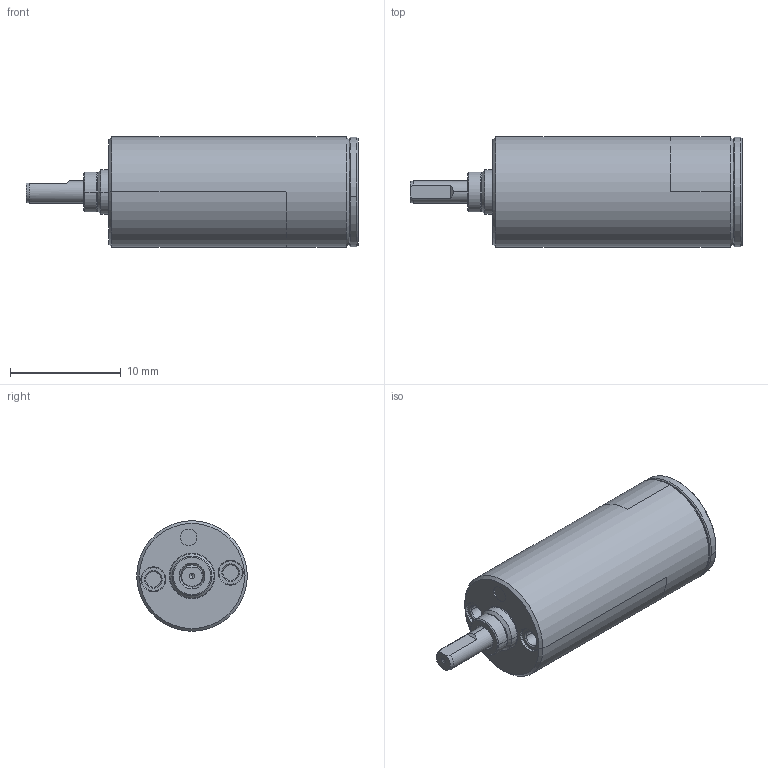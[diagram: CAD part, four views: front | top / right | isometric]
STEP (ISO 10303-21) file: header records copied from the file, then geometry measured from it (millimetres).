
FILE_DESCRIPTION((''),'2;1');
FILE_NAME('110308_GP10K_0_005NM_1ST_GL','2016-10-04T',('mmagvisi'),(''),'CREO PARAMETRIC BY PTC INC, 2016050','CREO PARAMETRIC BY PTC INC, 2016050','');
FILE_SCHEMA(('CONFIG_CONTROL_DESIGN'));
Length unit declared in the file: millimetre
Products named in the file (1): 110308_GP10K_0_005NM_1ST_GL
Bounding box: 30 x 10 x 10 mm (x, y, z)
Volume: 1768.9 mm3; surface area: 980.3 mm2
Topology: 1 solids, 1 shells, 77 faces, 167 edges, 103 vertices
Faces by surface type: cone 35, cylinder 20, plane 16, torus 6
Entity records: 2738 total; most frequent: DIRECTION 416, CARTESIAN_POINT 369, ORIENTED_EDGE 330, AXIS2_PLACEMENT_3D 178, PRESENTATION_STYLE_ASSIGNMENT 166, STYLED_ITEM 166, CURVE_STYLE 165, EDGE_CURVE 165
